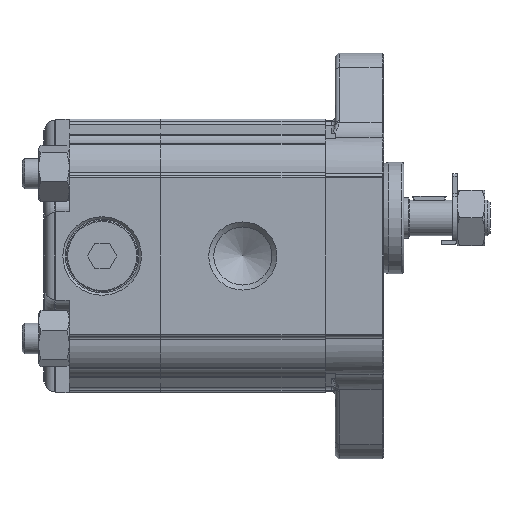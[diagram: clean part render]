
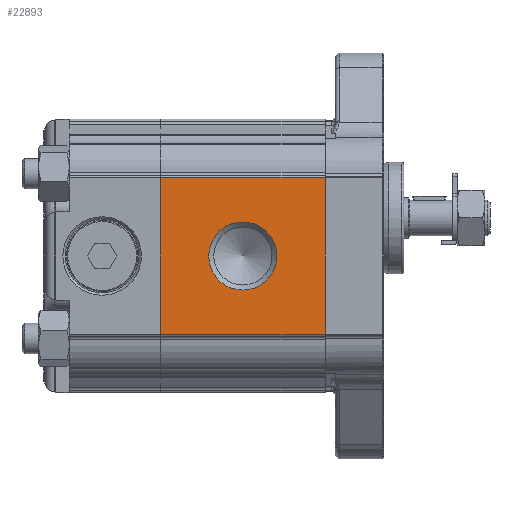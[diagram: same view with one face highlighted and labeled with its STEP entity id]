
A CAD part, left-side view. The second image highlights one B-rep face of the part: STEP entity #22893.
In plain terms, the highlighted planar face has unit normal (-1, 0, 0).
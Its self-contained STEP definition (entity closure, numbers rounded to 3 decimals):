
#1545=LINE('',#34010,#2674);
#1546=LINE('',#34014,#2675);
#1547=LINE('',#34016,#2676);
#1548=LINE('',#34018,#2677);
#2674=VECTOR('',#28045,1000.);
#2675=VECTOR('',#28050,1000.);
#2676=VECTOR('',#28051,1000.);
#2677=VECTOR('',#28052,1000.);
#5837=ORIENTED_EDGE('',*,*,#9193,.T.);
#5838=ORIENTED_EDGE('',*,*,#9194,.F.);
#5839=ORIENTED_EDGE('',*,*,#9192,.F.);
#5840=ORIENTED_EDGE('',*,*,#9195,.T.);
#5841=ORIENTED_EDGE('',*,*,#9196,.T.);
#9192=EDGE_CURVE('',#11058,#11057,#1545,.T.);
#9193=EDGE_CURVE('',#11059,#11059,#12272,.F.);
#9194=EDGE_CURVE('',#11057,#11060,#1546,.T.);
#9195=EDGE_CURVE('',#11058,#11061,#1547,.T.);
#9196=EDGE_CURVE('',#11061,#11060,#1548,.T.);
#11057=VERTEX_POINT('',#34007);
#11058=VERTEX_POINT('',#34009);
#11059=VERTEX_POINT('',#34013);
#11060=VERTEX_POINT('',#34015);
#11061=VERTEX_POINT('',#34017);
#12272=CIRCLE('',#24437,6.723);
#13284=EDGE_LOOP('',(#5837));
#13285=EDGE_LOOP('',(#5838,#5839,#5840,#5841));
#14494=FACE_BOUND('',#13284,.T.);
#14495=FACE_BOUND('',#13285,.T.);
#15284=PLANE('',#24436);
#22893=ADVANCED_FACE('',(#14494,#14495),#15284,.T.);
#24436=AXIS2_PLACEMENT_3D('',#34011,#28046,#28047);
#24437=AXIS2_PLACEMENT_3D('',#34012,#28048,#28049);
#28045=DIRECTION('',(0.,-1.,0.));
#28046=DIRECTION('',(-1.,0.,0.));
#28047=DIRECTION('',(0.,0.,1.));
#28048=DIRECTION('',(-1.,0.,0.));
#28049=DIRECTION('',(0.,0.,1.));
#28050=DIRECTION('',(0.,0.,-1.));
#28051=DIRECTION('',(0.,0.,-1.));
#28052=DIRECTION('',(0.,-1.,0.));
#34007=CARTESIAN_POINT('',(-25.,0.,15.418));
#34009=CARTESIAN_POINT('',(-25.,32.5,15.418));
#34010=CARTESIAN_POINT('',(-25.,32.5,15.418));
#34011=CARTESIAN_POINT('',(-25.,32.5,15.418));
#34012=CARTESIAN_POINT('',(-25.,16.25,0.));
#34013=CARTESIAN_POINT('',(-25.,16.25,6.723));
#34014=CARTESIAN_POINT('',(-25.,0.,15.418));
#34015=CARTESIAN_POINT('',(-25.,0.,-15.418));
#34016=CARTESIAN_POINT('',(-25.,32.5,15.418));
#34017=CARTESIAN_POINT('',(-25.,32.5,-15.418));
#34018=CARTESIAN_POINT('',(-25.,32.5,-15.418));
